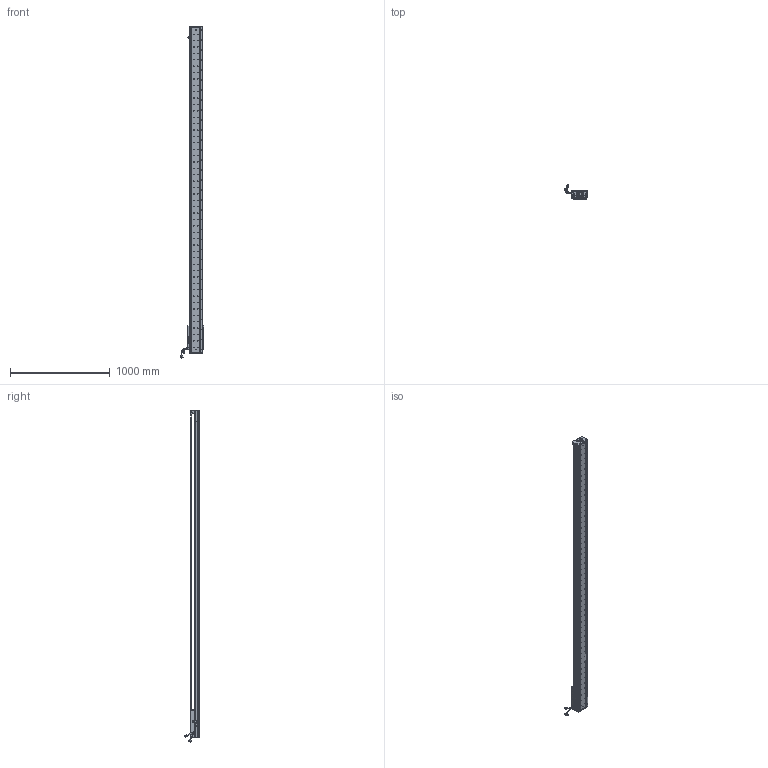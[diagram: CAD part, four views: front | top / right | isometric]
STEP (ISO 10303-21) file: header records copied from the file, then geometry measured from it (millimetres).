
FILE_DESCRIPTION (( 'STEP AP203' ), '1' );
FILE_NAME ('Z3-RY140D-1-L500-B-K.SLDASM_2950.step', '2021-05-17T08:07:22', ( '盈信电脑' ), ( '东莞市道滘镇水果街19号' ), 'SwSTEP 2.0', 'SolidWorks 2016', '' );
FILE_SCHEMA (( 'CONFIG_CONTROL_DESIGN' ));
Length unit declared in the file: millimetre
Products named in the file (36): Z3-RY140-L500直线电机模组底座_2950; Z-140詩湍傷裔啣; Z-RY140感应器672光电感应片; SCREW-M1.7; SEAL-Part-1; Z3-RY140-L500詩湍100mm遵_2950; SCREW-M1.6-2; HARNESS-Part-2; 覜茼ん672; 140蚥薯蝶輸; SCALE; SCREW-M1.6-1; SCALE-Part-1; COVER-Part-1; Z-RY140詩湍奻揤裔; Z-RY140詩湍狟揤裔; PSLH080_PSLF2; HARNESS-Part-1; Z3-RY140圉猾敕臏賑輸(21遴); 080黍杅芛假蚾釱21遴; SEAL; SCREW-M1.6-3; HARNESS; Z3-RY140D-1-L500-B-K.SLDASM_2950; 榋妏寠巭燃_暯_M2_2; LABEL; PBU_SHEET; SCREW-M1.6; 140雄赽晤鎢ん堤盄; HOLDER0; LABEL-Part-1; 140-Z-臏賑輸盄裔(21遴); SCALE-Part-2; COVER; SHIELDPLATE; SCREW-M1.7-1
Assembly tree (41 placements, depth 4):
  Z3-RY140D-1-L500-B-K.SLDASM_2950
    Z3-RY140-L500直线电机模组底座_2950
    Z-RY140感应器672光电感应片
    Z3-RY140圉猾敕臏賑輸(21遴)
    覜茼ん672  x3
    Z3-RY140-L500詩湍100mm遵_2950
    PSLH080_PSLF2
      SCALE
        SCALE-Part-1
        SCALE-Part-2
      HARNESS
        HARNESS-Part-1
        HARNESS-Part-2
      LABEL
        LABEL-Part-1
      COVER
        COVER-Part-1
      SEAL
        SEAL-Part-1
      榋妏寠巭燃_暯_M2_2
      SHIELDPLATE
      SCREW-M1.7
      SCREW-M1.7-1
      PBU_SHEET
      SCREW-M1.6
      SCREW-M1.6-1
      SCREW-M1.6-2
      SCREW-M1.6-3
      HOLDER0
    080黍杅芛假蚾釱21遴
    140-Z-臏賑輸盄裔(21遴)
    Z-140詩湍傷裔啣  x2
    Z-RY140詩湍狟揤裔  x2
    Z-RY140詩湍奻揤裔  x2
    140蚥薯蝶輸  x2
    140雄赽晤鎢ん堤盄
Bounding box: 239.79 x 143.88 x 3325.87 mm (x, y, z)
Volume: 10414227 mm3; surface area: 2719548.8 mm2
Topology: 36 solids, 36 shells, 4632 faces, 12712 edges, 8053 vertices
Faces by surface type: cylinder 2594, plane 1466, cone 450, torus 69, bspline 53
Entity records: 150144 total; most frequent: CARTESIAN_POINT 43589, ORIENTED_EDGE 22248, DIRECTION 20236, EDGE_CURVE 11124, AXIS2_PLACEMENT_3D 7548, VERTEX_POINT 7221, VECTOR 5140, LINE 5140
